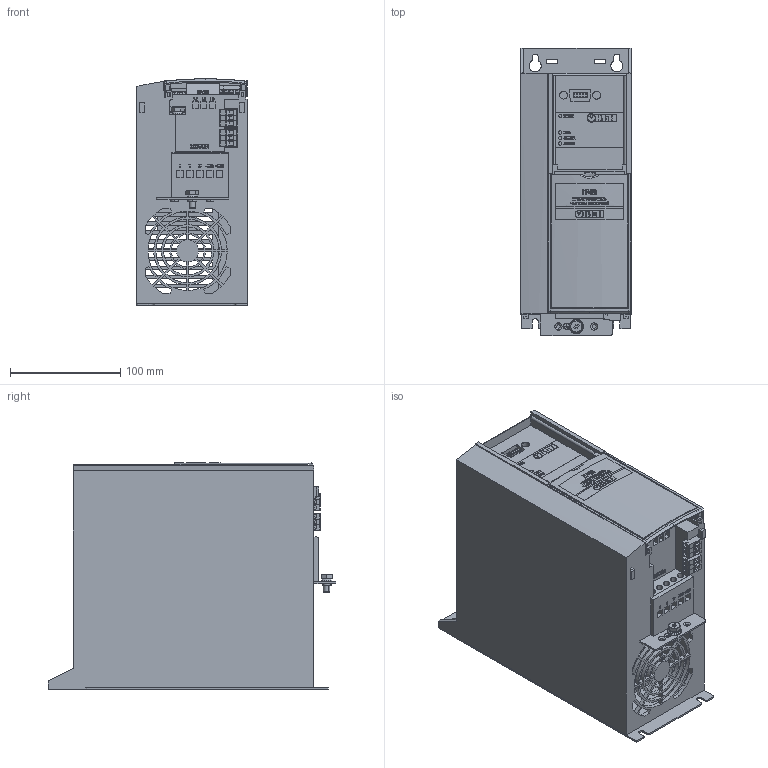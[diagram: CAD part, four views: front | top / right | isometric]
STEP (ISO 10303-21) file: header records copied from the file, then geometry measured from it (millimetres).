
FILE_DESCRIPTION (( 'STEP AP214' ), '1' );
FILE_NAME ('3D ìîäåëü Ï×Â3-5(7)Ê5-Â.STEP', '2016-11-14T10:08:33', ( '' ), ( '' ), 'SwSTEP 2.0', 'SolidWorks 2013', '' );
FILE_SCHEMA (( 'AUTOMOTIVE_DESIGN' ));
Length unit declared in the file: millimetre
Products named in the file (12): DIP-ïåðåêëþ÷àòåëü 2ïîç; Âòóëêà äëÿ ËÏÎ; Êîðïóñ Ï×Â3-3; 3D ìîäåëü Ï×Â3-5(7)Ê5-Â; Êðûøêà Ï×Â3_3; Âèíò Ì6_ISO 4017 - M6 x 12-N; serrated lock washer 2_din_DIN 6798-V6.4; Êëåììà_10õ13õ5ìì ÷åðí; 抔樦憵 2edgk-5,08-1p_grey; 冓踖樦 2EDGR-5.08-3p_grey; 抔樦憵 SMKDS 1-9-5_min; 抔樦憵 SMKDS 1-3-5_min
Assembly tree (21 placements, depth 2):
  3D ìîäåëü Ï×Â3-5(7)Ê5-Â
    Êîðïóñ Ï×Â3-3
    Âòóëêà äëÿ ËÏÎ
    DIP-ïåðåêëþ÷àòåëü 2ïîç
    抔樦憵 SMKDS 1-3-5_min
    抔樦憵 SMKDS 1-9-5_min
    冓踖樦 2EDGR-5.08-3p_grey  x2
    抔樦憵 2edgk-5,08-1p_grey  x6
    Êëåììà_10õ13õ5ìì ÷åðí  x3
    serrated lock washer 2_din_DIN 6798-V6.4  x2
    Âèíò Ì6_ISO 4017 - M6 x 12-N  x2
    Êðûøêà Ï×Â3_3
Bounding box: 100 x 261.1 x 205.28 mm (x, y, z)
Volume: 2274678.9 mm3; surface area: 791857.6 mm2
Topology: 24 solids, 24 shells, 3828 faces, 10121 edges, 6683 vertices
Faces by surface type: plane 2577, bspline 581, cylinder 576, cone 54, torus 40
Entity records: 160168 total; most frequent: CARTESIAN_POINT 62085, ORIENTED_EDGE 17198, DIRECTION 13650, EDGE_CURVE 8599, LINE 5712, VECTOR 5712, VERTEX_POINT 5694, AXIS2_PLACEMENT_3D 3969
